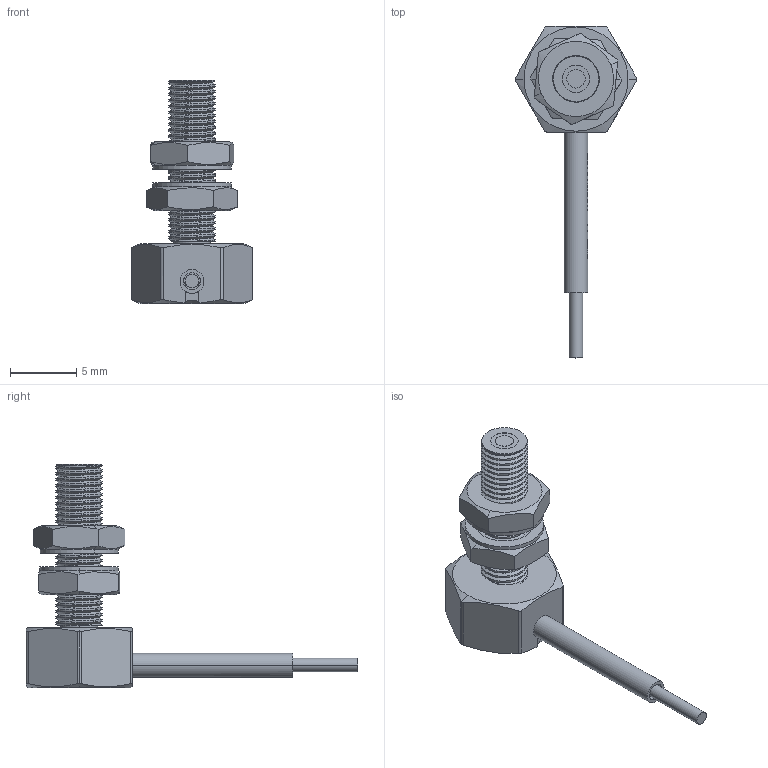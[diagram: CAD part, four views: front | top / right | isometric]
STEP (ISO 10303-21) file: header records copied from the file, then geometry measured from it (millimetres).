
FILE_DESCRIPTION (( 'STEP AP203' ), '1' );
FILE_NAME ('PT-32TZ.STEP', '2016-06-30T01:38:18', ( '' ), ( '' ), 'SwSTEP 2.0', 'SolidWorks 2013', '' );
FILE_SCHEMA (( 'CONFIG_CONTROL_DESIGN' ));
Length unit declared in the file: millimetre
Products named in the file (1): PT-32TZ
Bounding box: 9.14 x 25 x 16.8 mm (x, y, z)
Volume: 472.6 mm3; surface area: 829.2 mm2
Topology: 3 solids, 3 shells, 339 faces, 954 edges, 630 vertices
Faces by surface type: plane 196, cylinder 101, bspline 26, cone 13, torus 3
Entity records: 17140 total; most frequent: CARTESIAN_POINT 8864, ORIENTED_EDGE 1904, DIRECTION 1501, EDGE_CURVE 952, VERTEX_POINT 630, VECTOR 513, LINE 513, AXIS2_PLACEMENT_3D 494
